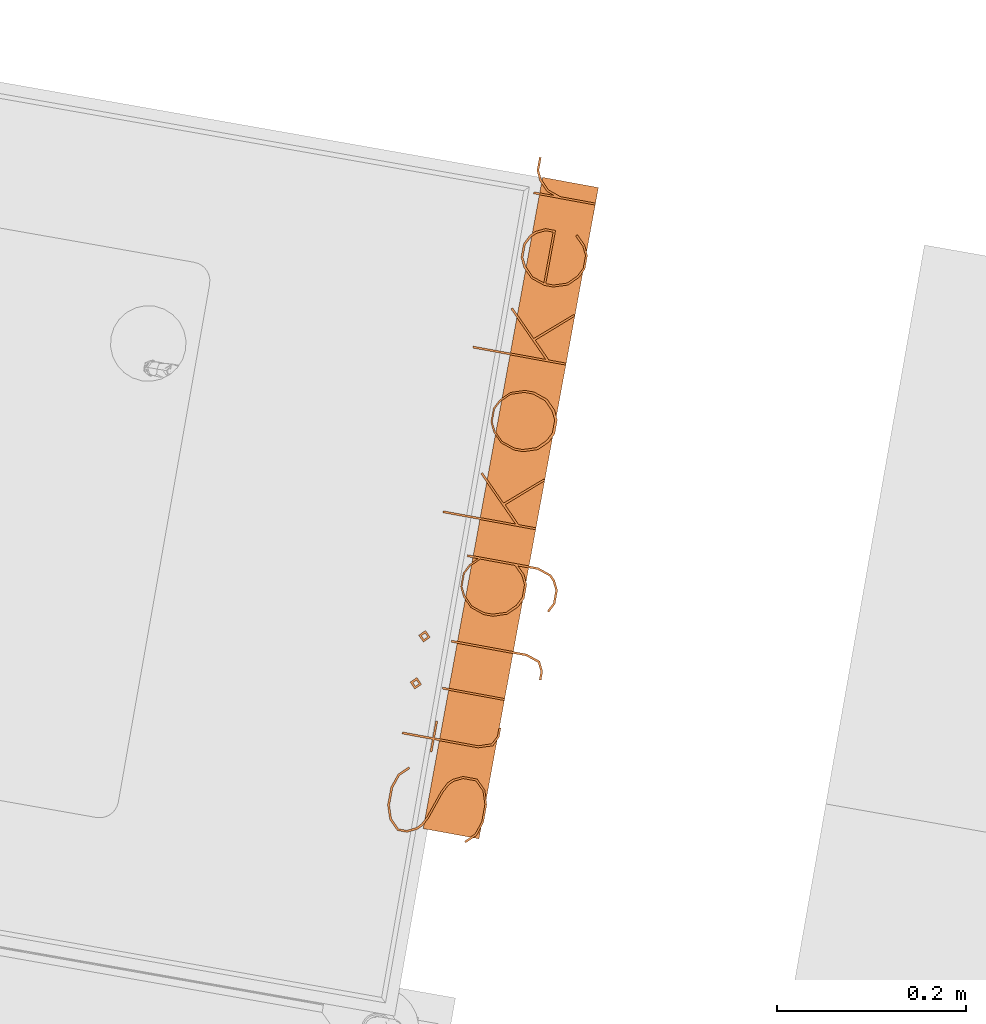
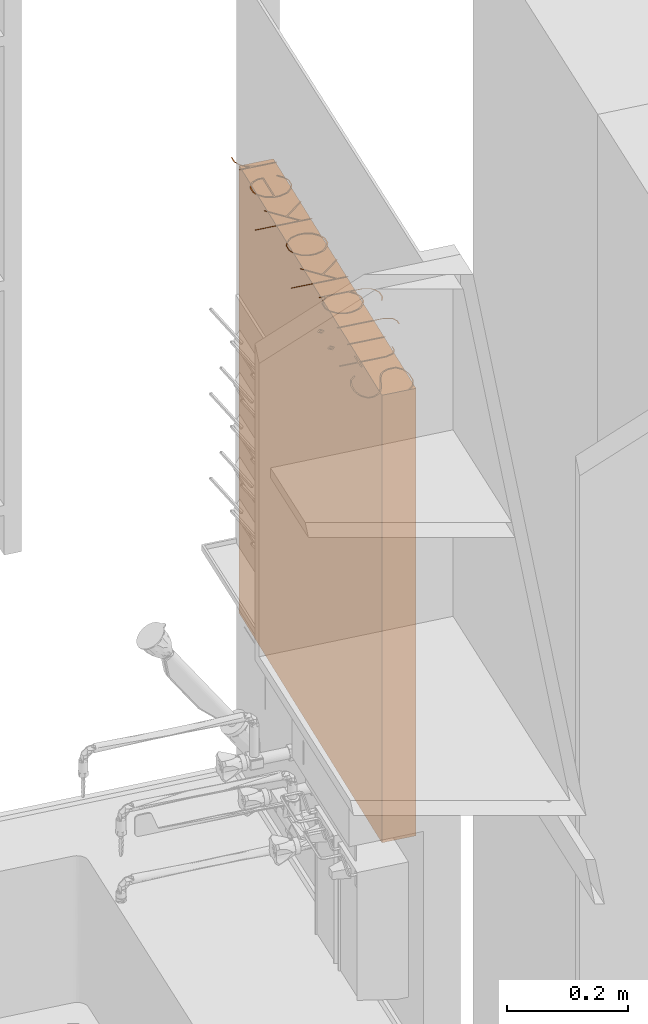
# One storey, part 18 of 32: 1 proxy.
"""IFC2X3 building model written with IfcOpenShell, lengths in metres."""

from ifc_helpers import new_model, entity, si_unit, converted_unit, derived_unit, direction, frame, origin, place, context, subcontext, project, spatial, face_set, surface_model, source, transform, mapped, material, type_object, type_shapes, element, save


model = new_model("IFC2X3")

# Units and contexts
model_context = context("Model", 3, precision=1e-05, world=origin(), true_north=direction((6.12303176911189e-17, 1.0)))
body_context = subcontext(model_context, "Body", "Model", "MODEL_VIEW")
ifc_project = project(units=[si_unit("LENGTHUNIT", "METRE"), si_unit("AREAUNIT", "SQUARE_METRE"), si_unit("VOLUMEUNIT", "CUBIC_METRE"), converted_unit("PLANEANGLEUNIT", "DEGREE", entity("IfcRatioMeasure", 0.0174532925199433), si_unit("PLANEANGLEUNIT", "RADIAN"), dimensions=[0, 0, 0, 0, 0, 0, 0]), si_unit("MASSUNIT", "GRAM", prefix="KILO"), derived_unit("MASSDENSITYUNIT", [(si_unit("MASSUNIT", "GRAM", prefix="KILO"), 1), (si_unit("LENGTHUNIT", "METRE"), -3)]), derived_unit("MOMENTOFINERTIAUNIT", [(si_unit("LENGTHUNIT", "METRE"), 4)]), si_unit("TIMEUNIT", "SECOND"), si_unit("FREQUENCYUNIT", "HERTZ"), si_unit("THERMODYNAMICTEMPERATUREUNIT", "DEGREE_CELSIUS"), derived_unit("THERMALTRANSMITTANCEUNIT", [(si_unit("MASSUNIT", "GRAM", prefix="KILO"), 1), (si_unit("THERMODYNAMICTEMPERATUREUNIT", "KELVIN"), -1), (si_unit("TIMEUNIT", "SECOND"), -3)]), derived_unit("VOLUMETRICFLOWRATEUNIT", [(si_unit("LENGTHUNIT", "METRE"), 3), (si_unit("TIMEUNIT", "SECOND"), -1)]), si_unit("ELECTRICCURRENTUNIT", "AMPERE"), si_unit("ELECTRICVOLTAGEUNIT", "VOLT"), si_unit("POWERUNIT", "WATT"), si_unit("FORCEUNIT", "NEWTON", prefix="KILO"), si_unit("ILLUMINANCEUNIT", "LUX"), si_unit("LUMINOUSFLUXUNIT", "LUMEN"), si_unit("LUMINOUSINTENSITYUNIT", "CANDELA"), derived_unit("USERDEFINED", [(si_unit("MASSUNIT", "GRAM", prefix="KILO"), -1), (si_unit("LENGTHUNIT", "METRE"), -2), (si_unit("TIMEUNIT", "SECOND"), 3), (si_unit("LUMINOUSFLUXUNIT", "LUMEN"), 1)]), derived_unit("LINEARVELOCITYUNIT", [(si_unit("LENGTHUNIT", "METRE"), 1), (si_unit("TIMEUNIT", "SECOND"), -1)]), si_unit("PRESSUREUNIT", "PASCAL"), derived_unit("USERDEFINED", [(si_unit("LENGTHUNIT", "METRE"), -2), (si_unit("MASSUNIT", "GRAM", prefix="KILO"), 1), (si_unit("TIMEUNIT", "SECOND"), -2)]), derived_unit("LINEARFORCEUNIT", [(si_unit("MASSUNIT", "GRAM", prefix="KILO"), 1), (si_unit("LENGTHUNIT", "METRE"), 1), (si_unit("TIMEUNIT", "SECOND"), -2), (si_unit("LENGTHUNIT", "METRE"), -1)]), derived_unit("PLANARFORCEUNIT", [(si_unit("MASSUNIT", "GRAM", prefix="KILO"), 1), (si_unit("LENGTHUNIT", "METRE"), 1), (si_unit("TIMEUNIT", "SECOND"), -2), (si_unit("LENGTHUNIT", "METRE"), -2)])], contexts=[model_context])

# Site, building, storey
site_placement = place(None, origin())
site = spatial("IfcSite", under=ifc_project, at=site_placement, Name="Default", CompositionType="ELEMENT")
building_placement = place(site_placement, origin())
building = spatial("IfcBuilding", under=site, at=building_placement, CompositionType="ELEMENT")
storey_placement = place(building_placement, origin())
storey = spatial("IfcBuildingStorey", under=building, at=storey_placement, Name="00 EG", CompositionType="ELEMENT", Elevation=0.0)

# Proxy
ifc_material = material(Name="dh_Stellfläche")
building_element_proxy_type = type_object("IfcBuildingElementProxyType", Name="dh_Gerät_Stellfläche Bestand:Nutzergerät", PredefinedType="NOTDEFINED", material=ifc_material)
shared_shape = source(origin(), body_context, "Body", "SurfaceModel", [
    surface_model("IfcFaceBasedSurfaceModel", [(-0.355113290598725, -0.0453817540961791, 0.905000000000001), (-0.356700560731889, -0.0470458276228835, 0.905000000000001), (-0.346946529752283, -0.0567998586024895, 0.905000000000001), (-0.332277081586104, -0.0616384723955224, 0.905000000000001), (-0.312948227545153, -0.0616384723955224, 0.905000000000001), (-0.298278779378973, -0.0567998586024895, 0.905000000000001), (-0.288166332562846, -0.0466618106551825, 0.905000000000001), (-0.288166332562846, -0.0314547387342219, 0.905000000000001), (-0.29308174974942, -0.0214446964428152, 0.905000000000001), (-0.298073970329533, -0.0163500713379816, 0.905000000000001), (-0.307904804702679, -0.0115114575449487, 0.905000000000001), (-0.336450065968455, -0.00188543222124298, 0.905000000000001), (-0.34569207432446, 0.00295318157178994, 0.905000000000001), (-0.350197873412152, 0.00745898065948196, 0.905000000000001), (-0.354857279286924, 0.0166497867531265, 0.905000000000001), (-0.354857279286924, 0.0255845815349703, 0.905000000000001), (-0.34582007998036, 0.0347241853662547, 0.905000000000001), (-0.331944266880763, 0.0393579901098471, 0.905000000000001), (-0.313204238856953, 0.0393579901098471, 0.905000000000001), (-0.299328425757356, 0.0347241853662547, 0.905000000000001), (-0.290112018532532, 0.0252005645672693, 0.905000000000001), (-0.288447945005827, 0.0268646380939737, 0.905000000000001), (-0.298278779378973, 0.0366186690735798, 0.905000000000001), (-0.312948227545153, 0.041585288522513, 0.905000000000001), (-0.332277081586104, 0.041585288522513, 0.905000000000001), (-0.346946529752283, 0.0366186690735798, 0.905000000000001), (-0.35698217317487, 0.0264550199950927, 0.905000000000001), (-0.35698217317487, 0.016112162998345, 0.905000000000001), (-0.352117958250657, 0.00610212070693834, 0.905000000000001), (-0.347074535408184, 0.00100749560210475, 0.905000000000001), (-0.337243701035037, -0.00383111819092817, 0.905000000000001), (-0.308698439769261, -0.0134571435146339, 0.905000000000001), (-0.299456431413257, -0.0182957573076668, 0.905000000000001), (-0.294950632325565, -0.0228015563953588, 0.905000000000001), (-0.290368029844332, -0.0320691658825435, 0.905000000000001), (-0.290368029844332, -0.0457657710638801, 0.905000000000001), (-0.299328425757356, -0.0549053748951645, 0.905000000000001), (-0.313204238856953, -0.0595647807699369, 0.905000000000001), (-0.331944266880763, -0.0595647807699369, 0.905000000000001), (-0.34582007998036, -0.0549053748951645, 0.905000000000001), (-0.230691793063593, -0.0616384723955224, 0.905000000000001), (-0.230691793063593, -0.0595647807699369, 0.905000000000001), (-0.239908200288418, -0.0595647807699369, 0.905000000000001), (-0.248740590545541, -0.055084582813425, 0.905000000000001), (-0.253399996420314, -0.0413879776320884, 0.905000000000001), (-0.253399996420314, 0.00533408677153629, 0.905000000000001), (-0.235402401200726, 0.00533408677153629, 0.905000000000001), (-0.235402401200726, 0.00745898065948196, 0.905000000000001), (-0.253399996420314, 0.00745898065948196, 0.905000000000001), (-0.253399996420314, 0.0399468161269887, 0.905000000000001), (-0.255576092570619, 0.0399468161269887, 0.905000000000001), (-0.255576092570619, 0.00745898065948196, 0.905000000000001), (-0.268735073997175, 0.00745898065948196, 0.905000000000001), (-0.268735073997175, 0.00533408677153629, 0.905000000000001), (-0.255576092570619, 0.00533408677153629, 0.905000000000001), (-0.255576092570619, -0.0416439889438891, 0.905000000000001), (-0.250660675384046, -0.0566974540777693, 0.905000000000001), (-0.240445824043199, -0.0616384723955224, 0.905000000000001), (-0.201327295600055, -0.0599999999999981, 0.905000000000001), (-0.199202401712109, -0.0599999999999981, 0.905000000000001), (-0.199202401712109, 0.00666534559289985, 0.905000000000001), (-0.201327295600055, 0.00666534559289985, 0.905000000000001), (-0.17329405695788, -0.0922318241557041, 0.905000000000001), (-0.17329405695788, -0.0944079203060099, 0.905000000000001), (-0.163744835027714, -0.0944079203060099, 0.905000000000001), (-0.153581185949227, -0.0893644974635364, 0.905000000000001), (-0.148665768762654, -0.0744390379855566, 0.905000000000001), (-0.148665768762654, 0.00651173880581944, 0.905000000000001), (-0.15086746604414, 0.00651173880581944, 0.905000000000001), (-0.15086746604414, -0.0741574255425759, 0.905000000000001), (-0.155501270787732, -0.087700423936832, 0.905000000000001), (-0.164333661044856, -0.0922318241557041, 0.905000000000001), (-0.100049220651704, -0.0875980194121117, 0.905000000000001), (-0.101175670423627, -0.0895181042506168, 0.905000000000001), (-0.0913448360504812, -0.0944079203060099, 0.905000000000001), (-0.0765473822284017, -0.0944079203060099, 0.905000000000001), (-0.0666397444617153, -0.0895181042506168, 0.905000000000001), (-0.0615963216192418, -0.0843466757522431, 0.905000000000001), (-0.0566809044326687, -0.069728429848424, 0.905000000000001), (-0.0566809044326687, 0.00615332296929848, 0.905000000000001), (-0.0588826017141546, 0.00615332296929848, 0.905000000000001), (-0.0588826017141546, -0.00552079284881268, 0.905000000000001), (-0.0666397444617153, 0.0023387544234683, 0.905000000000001), (-0.0765473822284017, 0.00717736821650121, 0.905000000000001), (-0.0913448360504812, 0.00717736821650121, 0.905000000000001), (-0.101303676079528, 0.0023387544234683, 0.905000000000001), (-0.111057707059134, -0.00756888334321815, 0.905000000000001), (-0.115973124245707, -0.0221871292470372, 0.905000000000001), (-0.115973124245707, -0.0319923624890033, 0.905000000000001), (-0.111057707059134, -0.0465850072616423, 0.905000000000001), (-0.101303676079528, -0.0564926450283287, 0.905000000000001), (-0.0913448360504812, -0.0612544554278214, 0.905000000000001), (-0.0765473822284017, -0.0612544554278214, 0.905000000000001), (-0.0666397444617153, -0.0564926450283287, 0.905000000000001), (-0.0588826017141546, -0.0485818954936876, 0.905000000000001), (-0.0588826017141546, -0.0694724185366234, 0.905000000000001), (-0.0634652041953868, -0.0832970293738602, 0.905000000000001), (-0.0679710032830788, -0.0875980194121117, 0.905000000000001), (-0.077059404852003, -0.0922318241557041, 0.905000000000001), (-0.0908072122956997, -0.0922318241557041, 0.905000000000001), (-0.0588826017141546, -0.0452537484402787, 0.905000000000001), (-0.0679710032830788, -0.0542909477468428, 0.905000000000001), (-0.077059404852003, -0.0588735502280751, 0.905000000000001), (-0.0908072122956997, -0.0588735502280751, 0.905000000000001), (-0.0999212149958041, -0.0542909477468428, 0.905000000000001), (-0.109214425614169, -0.0451257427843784, 0.905000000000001), (-0.113797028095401, -0.0312499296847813, 0.905000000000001), (-0.113797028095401, -0.0220079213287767, 0.905000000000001), (-0.109214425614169, -0.00813210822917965, 0.905000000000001), (-0.0999212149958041, 0.000956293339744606, 0.905000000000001), (-0.0908072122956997, 0.00561569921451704, 0.905000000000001), (-0.077059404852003, 0.00561569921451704, 0.905000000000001), (-0.0679710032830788, 0.000956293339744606, 0.905000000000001), (-0.0588826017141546, -0.00800410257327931, 0.905000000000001), (-0.017818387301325, -0.0599999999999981, 0.905000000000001), (-0.0156934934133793, -0.0599999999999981, 0.905000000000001), (-0.0156934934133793, -0.0413367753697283, 0.905000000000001), (0.00230410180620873, -0.0235439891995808, 0.905000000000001), (0.0347919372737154, -0.0599999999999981, 0.905000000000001), (0.0364560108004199, -0.0587455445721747, 0.905000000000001), (0.00376336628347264, -0.0214958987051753, 0.905000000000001), (0.0316685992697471, 0.00625572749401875, 0.905000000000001), (0.0300813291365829, 0.00784299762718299, 0.905000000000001), (-0.0156934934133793, -0.0379574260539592, 0.905000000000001), (-0.0156934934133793, 0.0399468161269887, 0.905000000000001), (-0.017818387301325, 0.0399468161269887, 0.905000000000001), (0.120146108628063, -0.0469178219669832, 0.905000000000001), (0.125061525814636, -0.0322227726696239, 0.905000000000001), (0.125061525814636, -0.0223663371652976, 0.905000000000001), (0.120146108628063, -0.00767128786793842, 0.905000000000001), (0.110315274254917, 0.00231315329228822, 0.905000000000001), (0.100407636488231, 0.00717736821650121, 0.905000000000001), (0.0856101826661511, 0.00717736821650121, 0.905000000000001), (0.0756513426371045, 0.00231315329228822, 0.905000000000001), (0.0658973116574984, -0.00767128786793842, 0.905000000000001), (0.0609818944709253, -0.0223663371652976, 0.905000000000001), (0.0609818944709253, -0.0322227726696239, 0.905000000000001), (0.0658973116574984, -0.0469178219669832, 0.905000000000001), (0.0756513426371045, -0.0568510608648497, 0.905000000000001), (0.0856101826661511, -0.0616384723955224, 0.905000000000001), (0.100407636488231, -0.0616384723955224, 0.905000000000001), (0.110315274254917, -0.0568510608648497, 0.905000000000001), (0.118200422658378, -0.0451257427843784, 0.905000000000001), (0.108984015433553, -0.0542909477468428, 0.905000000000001), (0.0998956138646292, -0.0588735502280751, 0.905000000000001), (0.0861478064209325, -0.0588735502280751, 0.905000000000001), (0.0770338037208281, -0.0542909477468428, 0.905000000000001), (0.0677405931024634, -0.0451257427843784, 0.905000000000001), (0.0631579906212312, -0.0312499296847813, 0.905000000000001), (0.0631579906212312, -0.0220079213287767, 0.905000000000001), (0.0677405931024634, -0.00813210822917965, 0.905000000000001), (0.0770338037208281, 0.000956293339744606, 0.905000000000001), (0.0861478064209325, 0.00561569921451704, 0.905000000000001), (0.0998956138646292, 0.00561569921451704, 0.905000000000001), (0.108984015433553, 0.000956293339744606, 0.905000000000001), (0.118200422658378, -0.00813210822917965, 0.905000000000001), (0.12285982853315, -0.0220079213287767, 0.905000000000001), (0.12285982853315, -0.0312499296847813, 0.905000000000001), (0.159136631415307, -0.0599999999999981, 0.905000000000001), (0.161261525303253, -0.0599999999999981, 0.905000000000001), (0.161261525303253, -0.0413367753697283, 0.905000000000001), (0.179259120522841, -0.0235439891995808, 0.905000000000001), (0.211746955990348, -0.0599999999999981, 0.905000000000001), (0.213411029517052, -0.0587455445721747, 0.905000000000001), (0.180718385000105, -0.0214958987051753, 0.905000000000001), (0.208623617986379, 0.00625572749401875, 0.905000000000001), (0.207036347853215, 0.00784299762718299, 0.905000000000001), (0.161261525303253, -0.0379574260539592, 0.905000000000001), (0.161261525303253, 0.0399468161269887, 0.905000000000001), (0.159136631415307, 0.0399468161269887, 0.905000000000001), (0.296973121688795, -0.0471994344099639, 0.905000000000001), (0.295309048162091, -0.0455353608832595, 0.905000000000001), (0.285939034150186, -0.0549821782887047, 0.905000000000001), (0.276850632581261, -0.0595647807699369, 0.905000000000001), (0.263102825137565, -0.0595647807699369, 0.905000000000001), (0.253988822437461, -0.0549821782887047, 0.905000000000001), (0.244695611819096, -0.0457913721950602, 0.905000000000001), (0.240113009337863, -0.0318899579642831, 0.905000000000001), (0.240113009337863, -0.0236463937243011, 0.905000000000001), (0.297229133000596, -0.0236463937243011, 0.905000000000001), (0.297229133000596, -0.0127147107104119, 0.905000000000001), (0.292313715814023, -0.00273026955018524, 0.905000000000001), (0.287270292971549, 0.00231315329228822, 0.905000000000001), (0.277362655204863, 0.00717736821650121, 0.905000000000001), (0.262565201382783, 0.00717736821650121, 0.905000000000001), (0.252606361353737, 0.00231315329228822, 0.905000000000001), (0.242852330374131, -0.00767128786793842, 0.905000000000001), (0.237936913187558, -0.0223663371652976, 0.905000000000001), (0.237936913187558, -0.0322227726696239, 0.905000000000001), (0.242852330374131, -0.0469178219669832, 0.905000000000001), (0.252606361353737, -0.0568510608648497, 0.905000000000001), (0.262565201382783, -0.0616384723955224, 0.905000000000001), (0.277362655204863, -0.0616384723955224, 0.905000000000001), (0.287270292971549, -0.0568510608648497, 0.905000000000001), (0.240522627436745, -0.0214446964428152, 0.905000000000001), (0.244695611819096, -0.00874653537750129, 0.905000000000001), (0.253988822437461, 0.000341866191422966, 0.905000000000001), (0.263102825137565, 0.0050012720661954, 0.905000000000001), (0.276850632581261, 0.0050012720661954, 0.905000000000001), (0.285939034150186, 0.000341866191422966, 0.905000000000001), (0.290444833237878, -0.00416393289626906, 0.905000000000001), (0.29502743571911, -0.0132779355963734, 0.905000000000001), (0.29502743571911, -0.0214446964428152, 0.905000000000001), (0.331176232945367, -0.0599999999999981, 0.905000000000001), (0.333301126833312, -0.0599999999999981, 0.905000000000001), (0.333301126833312, -0.0223407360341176, 0.905000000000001), (0.337960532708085, -0.00856732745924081, 0.905000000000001), (0.347202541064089, 0.000469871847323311, 0.905000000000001), (0.356342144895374, 0.00507807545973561, 0.905000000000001), (0.370371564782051, 0.00507807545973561, 0.905000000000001), (0.370371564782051, 0.00717736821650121, 0.905000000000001), (0.355753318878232, 0.00717736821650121, 0.905000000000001), (0.345871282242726, 0.00236435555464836, 0.905000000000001), (0.336040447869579, -0.00751768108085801, 0.905000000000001), (0.333301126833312, -0.0156076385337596, 0.905000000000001), (0.333301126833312, 0.00630692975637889, 0.905000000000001), (0.331176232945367, 0.00630692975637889, 0.905000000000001), (-0.149792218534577, 0.0291175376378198, 0.905000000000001), (-0.14349434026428, 0.0353386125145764, 0.905000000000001), (-0.149792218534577, 0.041585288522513, 0.905000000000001), (-0.156038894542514, 0.0353386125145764, 0.905000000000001), (-0.149792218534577, 0.0319592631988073, 0.905000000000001), (-0.153043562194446, 0.035210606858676, 0.905000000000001), (-0.149792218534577, 0.0384875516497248, 0.905000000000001), (-0.146464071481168, 0.035210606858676, 0.905000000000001), (-0.200252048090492, 0.0291175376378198, 0.905000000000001), (-0.194005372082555, 0.0353386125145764, 0.905000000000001), (-0.200252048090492, 0.041585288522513, 0.905000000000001), (-0.206498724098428, 0.0353386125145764, 0.905000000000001), (-0.200252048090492, 0.0319592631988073, 0.905000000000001), (-0.20350339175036, 0.035210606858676, 0.905000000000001), (-0.200252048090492, 0.0384875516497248, 0.905000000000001), (-0.197000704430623, 0.035210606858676, 0.905000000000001), (0.35, 0.0, 0.9), (0.35, -0.06, 0.9), (-0.35, -0.06, 0.9), (-0.35, 0.0, 0.9), (0.35, 0.0, 0.0), (0.35, -0.06, 0.0), (-0.35, -0.06, 0.0), (-0.35, 0.0, 0.0)], [face_set([[[0, 1, 2, 3, 4, 5, 6, 7, 8, 9, 10, 11, 12, 13, 14, 15, 16, 17, 18, 19, 20, 21, 22, 23, 24, 25, 26, 27, 28, 29, 30, 31, 32, 33, 34, 35, 36, 37, 38, 39]]]), face_set([[[40, 41, 42, 43, 44, 45, 46, 47, 48, 49, 50, 51, 52, 53, 54, 55, 56, 57]]]), face_set([[[58, 59, 60, 61]]]), face_set([[[62, 63, 64, 65, 66, 67, 68, 69, 70, 71]]]), face_set([[[72, 73, 74, 75, 76, 77, 78, 79, 80, 81, 82, 83, 84, 85, 86, 87, 88, 89, 90, 91, 92, 93, 94, 95, 96, 97, 98, 99], [100, 101, 102, 103, 104, 105, 106, 107, 108, 109, 110, 111, 112, 113]]]), face_set([[[114, 115, 116, 117, 118, 119, 120, 121, 122, 123, 124, 125]]]), face_set([[[126, 127, 128, 129, 130, 131, 132, 133, 134, 135, 136, 137, 138, 139, 140, 141], [142, 143, 144, 145, 146, 147, 148, 149, 150, 151, 152, 153, 154, 155, 156, 157]]]), face_set([[[158, 159, 160, 161, 162, 163, 164, 165, 166, 167, 168, 169]]]), face_set([[[170, 171, 172, 173, 174, 175, 176, 177, 178, 179, 180, 181, 182, 183, 184, 185, 186, 187, 188, 189, 190, 191, 192, 193], [194, 195, 196, 197, 198, 199, 200, 201, 202]]]), face_set([[[203, 204, 205, 206, 207, 208, 209, 210, 211, 212, 213, 214, 215, 216]]]), face_set([[[217, 218, 219, 220], [221, 222, 223, 224]]]), face_set([[[225, 226, 227, 228], [229, 230, 231, 232]]]), face_set([[[233, 234, 235, 236]], [[237, 238, 239, 240]], [[236, 233, 237, 240]], [[235, 236, 240, 239]], [[234, 238, 239, 235]], [[233, 234, 238, 237]]])]),
])
type_shapes(building_element_proxy_type, [shared_shape])
proxy_placement = place(storey_placement, frame((27.4273051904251, 18.2112411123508, 1.2), z_axis=(0.0, 0.0, 1.0), x_axis=(0.180288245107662, 0.983613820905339, 0.0)))
element("IfcBuildingElementProxy", 1, at=proxy_placement, inside=storey, type_object=building_element_proxy_type, material=ifc_material, Name="dh_Gerät_Stellfläche Bestand:Nutzergerät", ObjectType="dh_Gerät_Stellfläche Bestand:Nutzergerät", context=body_context, shape_type="MappedRepresentation", body=[
    mapped(shared_shape, transform((0.0, 0.0, 0.0), scale=1.0)),
])

save(model, "model.ifc")
